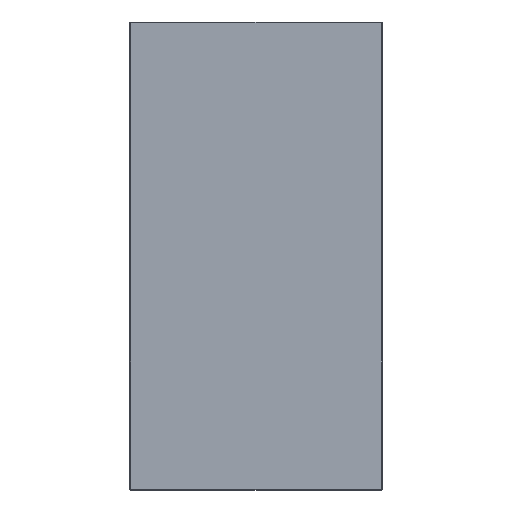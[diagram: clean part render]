
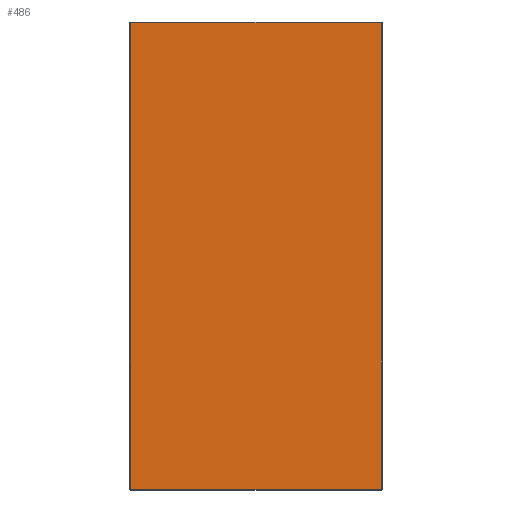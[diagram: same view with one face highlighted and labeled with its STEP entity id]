
A CAD part, top view. The second image highlights one B-rep face of the part: STEP entity #486.
In plain terms, the highlighted planar face has unit normal (0, 0, 1).
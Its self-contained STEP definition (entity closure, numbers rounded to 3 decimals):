
#80 = VECTOR ( 'NONE', #408, 1000. ) ;
#129 = CARTESIAN_POINT ( 'NONE',  ( -133., -248., 22. ) ) ;
#142 = EDGE_CURVE ( 'NONE', #638, #251, #353, .T. ) ;
#167 = ORIENTED_EDGE ( 'NONE', *, *, #294, .T. ) ;
#170 = DIRECTION ( 'NONE',  ( 0., -1., 0. ) ) ;
#185 = DIRECTION ( 'NONE',  ( 0., 1., 0. ) ) ;
#192 = CARTESIAN_POINT ( 'NONE',  ( 133., 248., 22. ) ) ;
#201 = CARTESIAN_POINT ( 'NONE',  ( -133., 247., 22. ) ) ;
#205 = EDGE_CURVE ( 'NONE', #229, #638, #269, .T. ) ;
#223 = VECTOR ( 'NONE', #185, 1000. ) ;
#229 = VERTEX_POINT ( 'NONE', #201 ) ;
#251 = VERTEX_POINT ( 'NONE', #600 ) ;
#261 = AXIS2_PLACEMENT_3D ( 'NONE', #475, #358, #341 ) ;
#262 = LINE ( 'NONE', #192, #223 ) ;
#269 = LINE ( 'NONE', #129, #625 ) ;
#294 = EDGE_CURVE ( 'NONE', #324, #229, #374, .T. ) ;
#314 = CARTESIAN_POINT ( 'NONE',  ( 133., 247., 22. ) ) ;
#324 = VERTEX_POINT ( 'NONE', #314 ) ;
#341 = DIRECTION ( 'NONE',  ( 1., 0., 0. ) ) ;
#353 = LINE ( 'NONE', #389, #80 ) ;
#358 = DIRECTION ( 'NONE',  ( 0., 0., 1. ) ) ;
#374 = LINE ( 'NONE', #533, #615 ) ;
#389 = CARTESIAN_POINT ( 'NONE',  ( 134., -247., 22. ) ) ;
#408 = DIRECTION ( 'NONE',  ( 1., 0., 0. ) ) ;
#414 = ORIENTED_EDGE ( 'NONE', *, *, #205, .T. ) ;
#436 = PLANE ( 'NONE',  #261 ) ;
#439 = DIRECTION ( 'NONE',  ( -1., 0., 0. ) ) ;
#453 = ORIENTED_EDGE ( 'NONE', *, *, #558, .T. ) ;
#455 = CARTESIAN_POINT ( 'NONE',  ( -133., -247., 22. ) ) ;
#462 = FACE_OUTER_BOUND ( 'NONE', #474, .T. ) ;
#474 = EDGE_LOOP ( 'NONE', ( #453, #167, #414, #503 ) ) ;
#475 = CARTESIAN_POINT ( 'NONE',  ( 0., 0., 22. ) ) ;
#486 = ADVANCED_FACE ( 'NONE', ( #462 ), #436, .T. ) ;
#503 = ORIENTED_EDGE ( 'NONE', *, *, #142, .T. ) ;
#533 = CARTESIAN_POINT ( 'NONE',  ( -134., 247., 22. ) ) ;
#558 = EDGE_CURVE ( 'NONE', #251, #324, #262, .T. ) ;
#600 = CARTESIAN_POINT ( 'NONE',  ( 133., -247., 22. ) ) ;
#615 = VECTOR ( 'NONE', #439, 1000. ) ;
#625 = VECTOR ( 'NONE', #170, 1000. ) ;
#638 = VERTEX_POINT ( 'NONE', #455 ) ;
